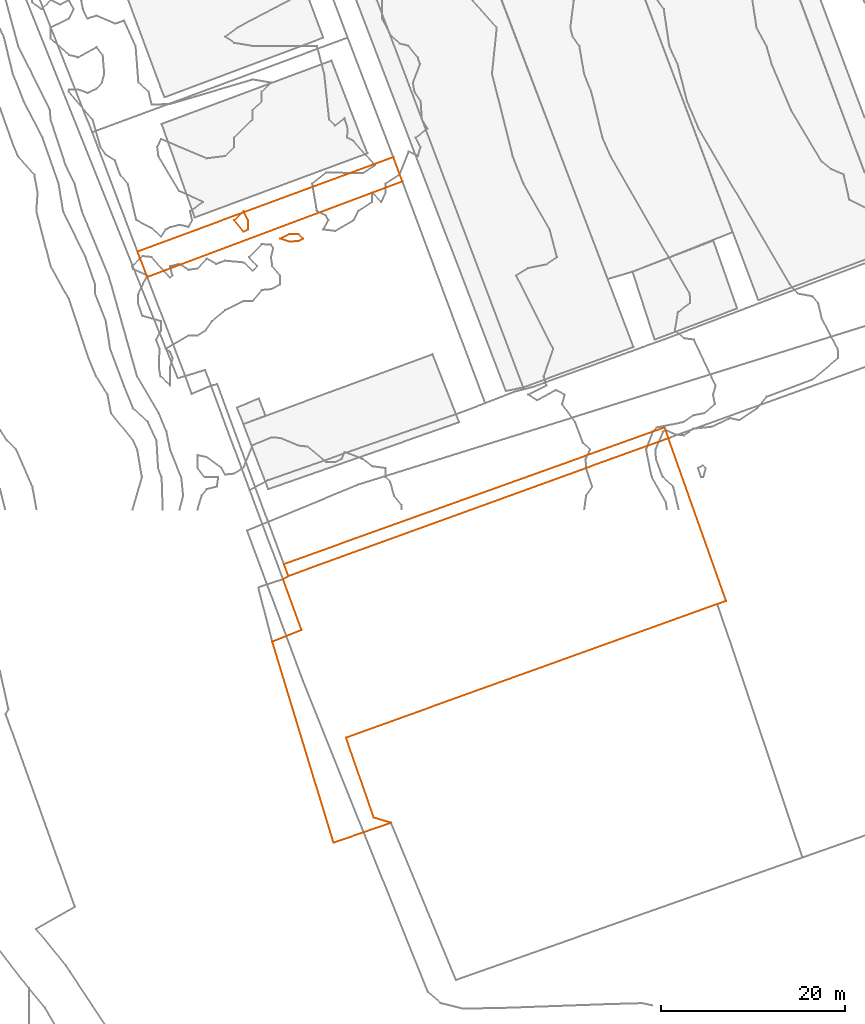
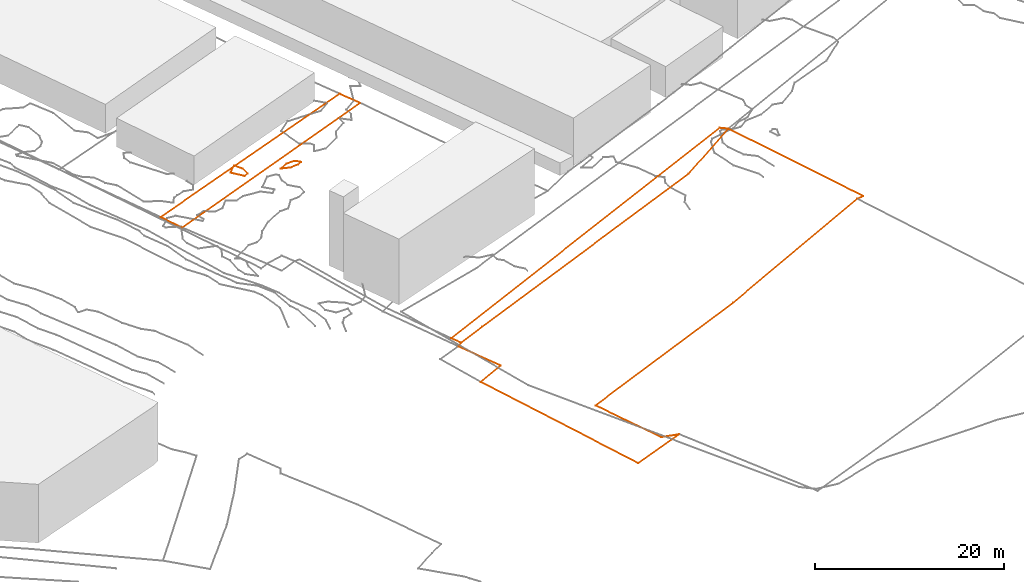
# Not in any storey, part 160 of 419: 5 proxies.
"""IFC2X3 model written with IfcOpenShell, lengths in metres."""

from ifc_helpers import new_model, entity, si_unit, frame, origin_with_axes, place, context, subcontext, project, element, save


model = new_model("IFC2X3")

# Units and contexts
model_context = context("Model", 3, precision=1e-05, world=origin_with_axes())
body_context = subcontext(model_context, "Body", "Model", "MODEL_VIEW")
ifc_project = project(units=[si_unit("AREAUNIT", "SQUARE_METRE"), si_unit("LENGTHUNIT", "METRE")], contexts=[model_context])

# Proxies
proxy_1_placement = place(None, frame((360.2320204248, -16.0123090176, 19.3019999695), z_axis=(0.0, 0.0, 1.0), x_axis=(1.0, 0.0, 0.0)))
element("IfcBuildingElementProxy", 1, at=proxy_1_placement, Name="Cadastre 365", ObjectType="NOTDEFINED", context=body_context, shape_type="GeometricCurveSet", body=[
    entity("IfcGeometricCurveSet", [entity("IfcPolyline", [entity("IfcCartesianPoint", [29.29, -2.7999999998, 1.6851998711]), entity("IfcCartesianPoint", [8.03, -10.4500000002, 0.4781994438]), entity("IfcCartesianPoint", [11.0600000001, -19.1600000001, 0.5989996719]), entity("IfcCartesianPoint", [12.9300000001, -19.7299999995, 0.6607999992]), entity("IfcCartesianPoint", [6.67, -21.8999999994, 0.4241994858]), entity("IfcCartesianPoint", [0.0, 0.0, 0.0]), entity("IfcCartesianPoint", [3.1900000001, 1.29, 0.2278007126]), entity("IfcCartesianPoint", [1.17, 6.8100000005, 0.0665992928]), entity("IfcCartesianPoint", [1.76, 7.1600000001, 0.1179993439]), entity("IfcCartesianPoint", [5.01, 8.3399999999, 0.3239997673]), entity("IfcCartesianPoint", [36.99, 19.9400000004, 1.9220607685]), entity("IfcCartesianPoint", [43.15, 22.1699999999, 4.2501357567]), entity("IfcCartesianPoint", [49.45, 4.4500000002, 4.0581008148]), entity("IfcCartesianPoint", [48.5, 4.1200000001, 4.2399998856]), entity("IfcCartesianPoint", [29.29, -2.7999999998, 1.6851998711])])]),
])
proxy_2_placement = place(None, frame((361.5020204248, -7.5523090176, 19.3745992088), z_axis=(0.0, 0.0, 1.0), x_axis=(1.0, 0.0, 0.0)))
element("IfcBuildingElementProxy", 2, at=proxy_2_placement, Name="Cadastre 366", ObjectType="NOTDEFINED", context=body_context, shape_type="GeometricCurveSet", body=[
    entity("IfcGeometricCurveSet", [entity("IfcPolyline", [entity("IfcCartesianPoint", [0.49, -1.2999999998, 0.0454001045]), entity("IfcCartesianPoint", [0.0, 0.0, 0.0]), entity("IfcCartesianPoint", [41.48, 14.8900000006, 3.7088186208]), entity("IfcCartesianPoint", [41.88, 13.71, 4.1775365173]), entity("IfcCartesianPoint", [35.72, 11.4800000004, 1.8494615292]), entity("IfcCartesianPoint", [3.74, -0.1200000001, 0.251400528]), entity("IfcCartesianPoint", [0.49, -1.2999999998, 0.0454001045])])]),
])
proxy_3_placement = place(None, frame((345.5520204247, 26.4976909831, 20.0052798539), z_axis=(0.0, 0.0, 1.0), x_axis=(1.0, 0.0, 0.0)))
element("IfcBuildingElementProxy", 3, at=proxy_3_placement, Name="Cadastre 373", ObjectType="NOTDEFINED", context=body_context, shape_type="GeometricCurveSet", body=[
    entity("IfcGeometricCurveSet", [entity("IfcPolyline", [entity("IfcCartesianPoint", [0.0, 0.0, 0.0]), entity("IfcCartesianPoint", [27.8700000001, 10.2999999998, -0.0209802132]), entity("IfcCartesianPoint", [28.8500000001, 7.6499999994, 0.0562696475]), entity("IfcCartesianPoint", [1.0600000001, -2.7800000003, -0.0458154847]), entity("IfcCartesianPoint", [0.0, 0.0, 0.0])])]),
])
proxy_4_placement = place(None, frame((356.0921204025, 29.8976909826, 20.0), z_axis=(0.0, 0.0, 1.0), x_axis=(1.0, 0.0, 0.0)))
element("IfcBuildingElementProxy", 4, at=proxy_4_placement, Name="Contour 20.0 m", ObjectType="NOTDEFINED", context=body_context, shape_type="GeometricCurveSet", body=[
    entity("IfcGeometricCurveSet", [entity("IfcPolyline", [entity("IfcCartesianPoint", [0.9999000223, -1.25, 0.0]), entity("IfcCartesianPoint", [1.4998500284, -1.0, 0.0]), entity("IfcCartesianPoint", [1.4998500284, 0.0, 0.0]), entity("IfcCartesianPoint", [0.9999000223, 0.9999000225, 0.0]), entity("IfcCartesianPoint", [0.0, 0.0, 0.0]), entity("IfcCartesianPoint", [0.9999000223, -1.25, 0.0])])]),
])
proxy_5_placement = place(None, frame((361.0921204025, 27.8976909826, 20.0), z_axis=(0.0, 0.0, 1.0), x_axis=(1.0, 0.0, 0.0)))
element("IfcBuildingElementProxy", 5, at=proxy_5_placement, Name="Contour 20.0 m", ObjectType="NOTDEFINED", context=body_context, shape_type="GeometricCurveSet", body=[
    entity("IfcGeometricCurveSet", [entity("IfcPolyline", [entity("IfcCartesianPoint", [1.9999000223, -0.25, 0.0]), entity("IfcCartesianPoint", [2.4998500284, 0.0, 0.0]), entity("IfcCartesianPoint", [1.9999000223, 0.4999500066, 0.0]), entity("IfcCartesianPoint", [0.9999000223, 0.4999500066, 0.0]), entity("IfcCartesianPoint", [0.0, 0.0, 0.0]), entity("IfcCartesianPoint", [0.9999000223, -0.333333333, 0.0]), entity("IfcCartesianPoint", [1.9999000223, -0.25, 0.0])])]),
])

save(model, "model.ifc")
